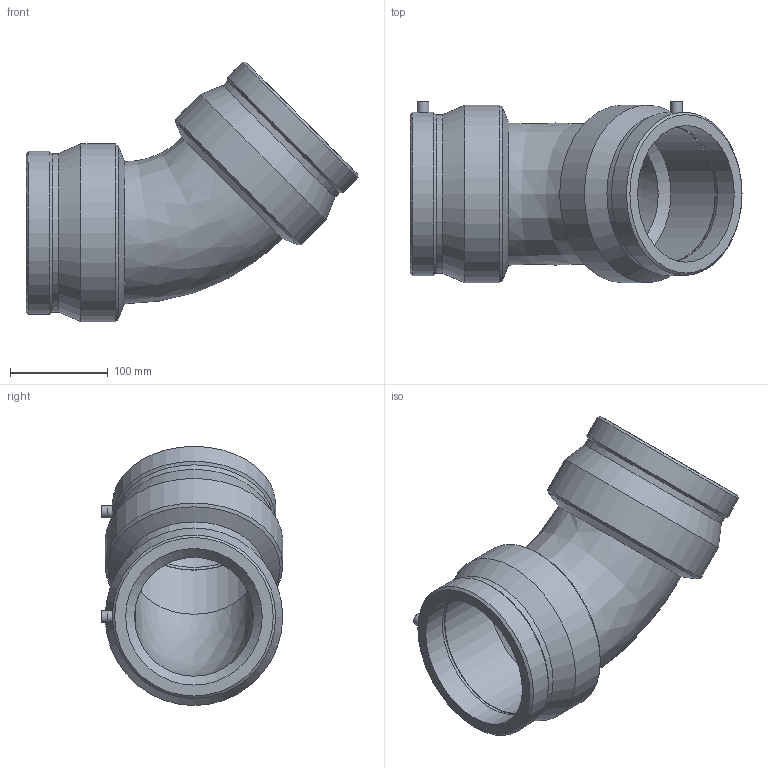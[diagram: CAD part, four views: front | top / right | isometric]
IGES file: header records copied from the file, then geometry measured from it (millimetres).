
Global section: file name: 490604140.ipt; native system: Autodesk Inventor 2015; preprocessor: unknown; author: KIM; date: 20171106.093656; units: millimetre
Bounding box: 340.22 x 186 x 265.56 mm (x, y, z)
Volume: 2305692.4 mm3; surface area: 333205.4 mm2
Topology: 1 solids, 1 shells, 42 faces, 98 edges, 64 vertices
Faces by surface type: revolution 12, cone 10, cylinder 10, plane 10
Full cylindrical faces by diameter (mm): 4.8 x2, 12 x2, 162.417 x2, 167.44 x2, 182 x2
